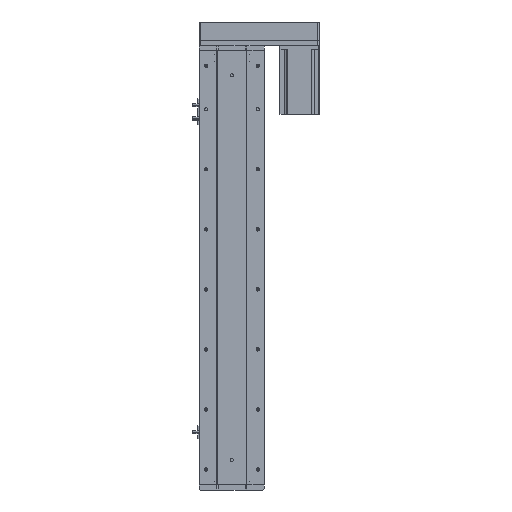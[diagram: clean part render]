
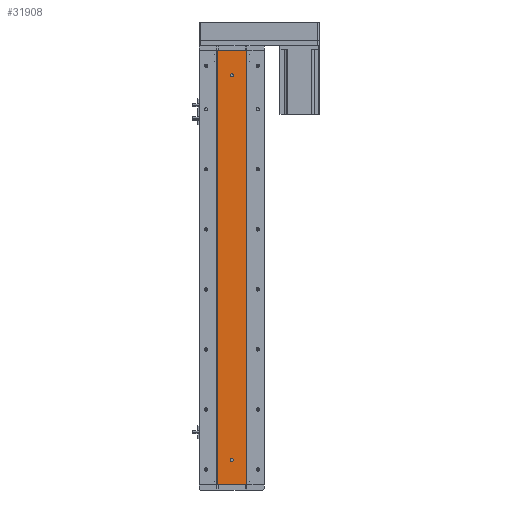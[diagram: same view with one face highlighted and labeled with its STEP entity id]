
A CAD part, left-side view. The second image highlights one B-rep face of the part: STEP entity #31908.
In plain terms, the highlighted planar face has unit normal (-1, 0, 0).
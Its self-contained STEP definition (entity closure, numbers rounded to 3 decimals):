
#398 = DIRECTION ( 'NONE',  ( 0., -1., 0. ) ) ;
#547 = AXIS2_PLACEMENT_3D ( 'NONE', #9066, #33162, #12504 ) ;
#640 = DIRECTION ( 'NONE',  ( 0., -1., 0. ) ) ;
#2132 = DIRECTION ( 'NONE',  ( 0., 0., 1. ) ) ;
#2338 = ORIENTED_EDGE ( 'NONE', *, *, #23229, .F. ) ;
#3427 = VECTOR ( 'NONE', #640, 1000. ) ;
#3972 = AXIS2_PLACEMENT_3D ( 'NONE', #43456, #22860, #2132 ) ;
#5585 = CARTESIAN_POINT ( 'NONE',  ( -24.994, 29.785, 869. ) ) ;
#6276 = EDGE_LOOP ( 'NONE', ( #40405, #29830 ) ) ;
#7006 = VECTOR ( 'NONE', #32085, 1000. ) ;
#8296 = CARTESIAN_POINT ( 'NONE',  ( -24.994, -29.785, 869. ) ) ;
#8945 = DIRECTION ( 'NONE',  ( 0., 0., -1. ) ) ;
#9066 = CARTESIAN_POINT ( 'NONE',  ( -24.994, 0., 50. ) ) ;
#9081 = DIRECTION ( 'NONE',  ( 0., 0., -1. ) ) ;
#10826 = FACE_BOUND ( 'NONE', #41583, .T. ) ;
#10906 = AXIS2_PLACEMENT_3D ( 'NONE', #35070, #14446, #38517 ) ;
#10934 = VERTEX_POINT ( 'NONE', #31494 ) ;
#12504 = DIRECTION ( 'NONE',  ( 0., 0., 1. ) ) ;
#12580 = AXIS2_PLACEMENT_3D ( 'NONE', #5585, #29683, #9081 ) ;
#12625 = LINE ( 'NONE', #38499, #3427 ) ;
#13686 = EDGE_CURVE ( 'NONE', #32071, #43042, #44093, .T. ) ;
#14446 = DIRECTION ( 'NONE',  ( -1., 0., 0. ) ) ;
#14617 = LINE ( 'NONE', #31145, #23794 ) ;
#14631 = CARTESIAN_POINT ( 'NONE',  ( -24.994, 0., 53. ) ) ;
#15759 = PLANE ( 'NONE',  #12580 ) ;
#18935 = FACE_BOUND ( 'NONE', #6276, .T. ) ;
#18963 = CARTESIAN_POINT ( 'NONE',  ( -24.994, 0., 50. ) ) ;
#20017 = FACE_OUTER_BOUND ( 'NONE', #23795, .T. ) ;
#20114 = ORIENTED_EDGE ( 'NONE', *, *, #38917, .T. ) ;
#21009 = ORIENTED_EDGE ( 'NONE', *, *, #27668, .T. ) ;
#21900 = EDGE_CURVE ( 'NONE', #34829, #32407, #12625, .T. ) ;
#22860 = DIRECTION ( 'NONE',  ( -1., 0., 0. ) ) ;
#23229 = EDGE_CURVE ( 'NONE', #43042, #32071, #35109, .T. ) ;
#23794 = VECTOR ( 'NONE', #398, 1000. ) ;
#23795 = EDGE_LOOP ( 'NONE', ( #20114, #38409, #27845, #21009 ) ) ;
#24001 = AXIS2_PLACEMENT_3D ( 'NONE', #18963, #43015, #24784 ) ;
#24784 = DIRECTION ( 'NONE',  ( 0., 0., 1. ) ) ;
#25166 = EDGE_CURVE ( 'NONE', #32504, #39003, #25770, .T. ) ;
#25356 = VECTOR ( 'NONE', #8945, 1000. ) ;
#25613 = EDGE_CURVE ( 'NONE', #39003, #32504, #31545, .T. ) ;
#25770 = CIRCLE ( 'NONE', #24001, 3. ) ;
#26486 = CARTESIAN_POINT ( 'NONE',  ( -24.994, -29.785, 0. ) ) ;
#27668 = EDGE_CURVE ( 'NONE', #34829, #10934, #34517, .T. ) ;
#27845 = ORIENTED_EDGE ( 'NONE', *, *, #21900, .F. ) ;
#27943 = EDGE_CURVE ( 'NONE', #32407, #33889, #43616, .T. ) ;
#29683 = DIRECTION ( 'NONE',  ( 1., 0., 0. ) ) ;
#29830 = ORIENTED_EDGE ( 'NONE', *, *, #25166, .F. ) ;
#31145 = CARTESIAN_POINT ( 'NONE',  ( -24.994, 29.785, 0. ) ) ;
#31494 = CARTESIAN_POINT ( 'NONE',  ( -24.994, 29.785, 0. ) ) ;
#31545 = CIRCLE ( 'NONE', #547, 3. ) ;
#31908 = ADVANCED_FACE ( 'NONE', ( #10826, #18935, #20017 ), #15759, .F. ) ;
#32071 = VERTEX_POINT ( 'NONE', #40975 ) ;
#32085 = DIRECTION ( 'NONE',  ( 0., 0., -1. ) ) ;
#32407 = VERTEX_POINT ( 'NONE', #8296 ) ;
#32504 = VERTEX_POINT ( 'NONE', #39764 ) ;
#33046 = CARTESIAN_POINT ( 'NONE',  ( -24.994, -29.785, 869. ) ) ;
#33162 = DIRECTION ( 'NONE',  ( -1., 0., 0. ) ) ;
#33889 = VERTEX_POINT ( 'NONE', #26486 ) ;
#34517 = LINE ( 'NONE', #38878, #7006 ) ;
#34829 = VERTEX_POINT ( 'NONE', #42320 ) ;
#35070 = CARTESIAN_POINT ( 'NONE',  ( -24.994, 0., 819. ) ) ;
#35109 = CIRCLE ( 'NONE', #10906, 3. ) ;
#36968 = ORIENTED_EDGE ( 'NONE', *, *, #13686, .F. ) ;
#38409 = ORIENTED_EDGE ( 'NONE', *, *, #27943, .F. ) ;
#38499 = CARTESIAN_POINT ( 'NONE',  ( -24.994, 29.785, 869. ) ) ;
#38517 = DIRECTION ( 'NONE',  ( 0., 0., 1. ) ) ;
#38878 = CARTESIAN_POINT ( 'NONE',  ( -24.994, 29.785, 869. ) ) ;
#38917 = EDGE_CURVE ( 'NONE', #10934, #33889, #14617, .T. ) ;
#39003 = VERTEX_POINT ( 'NONE', #14631 ) ;
#39764 = CARTESIAN_POINT ( 'NONE',  ( -24.994, 0., 47. ) ) ;
#40405 = ORIENTED_EDGE ( 'NONE', *, *, #25613, .F. ) ;
#40975 = CARTESIAN_POINT ( 'NONE',  ( -24.994, 0., 816. ) ) ;
#41495 = CARTESIAN_POINT ( 'NONE',  ( -24.994, 0., 822. ) ) ;
#41583 = EDGE_LOOP ( 'NONE', ( #2338, #36968 ) ) ;
#42320 = CARTESIAN_POINT ( 'NONE',  ( -24.994, 29.785, 869. ) ) ;
#43015 = DIRECTION ( 'NONE',  ( -1., 0., 0. ) ) ;
#43042 = VERTEX_POINT ( 'NONE', #41495 ) ;
#43456 = CARTESIAN_POINT ( 'NONE',  ( -24.994, 0., 819. ) ) ;
#43616 = LINE ( 'NONE', #33046, #25356 ) ;
#44093 = CIRCLE ( 'NONE', #3972, 3. ) ;
